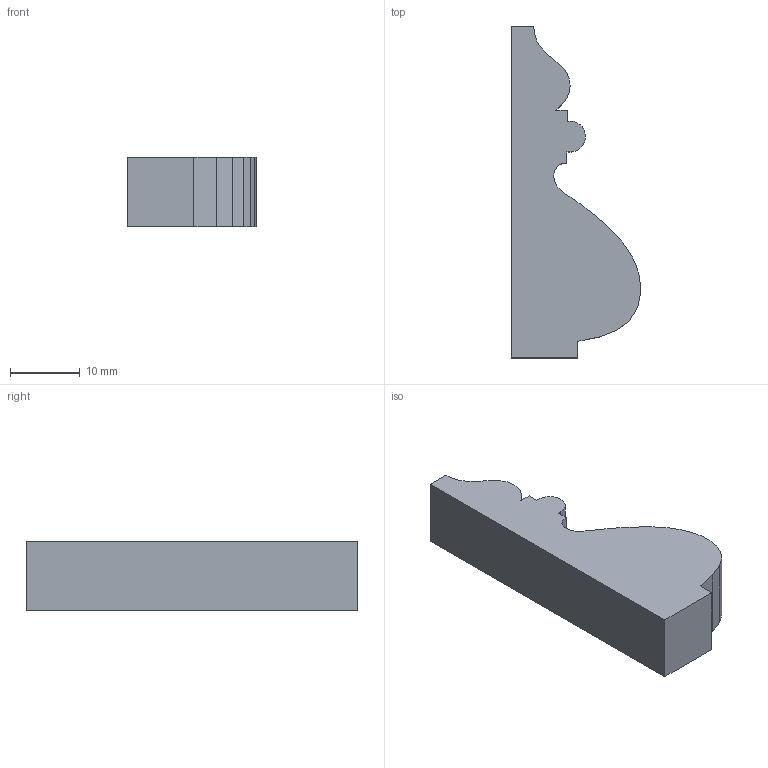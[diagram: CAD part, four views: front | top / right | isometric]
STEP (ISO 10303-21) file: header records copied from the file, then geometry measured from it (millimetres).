
FILE_DESCRIPTION (( 'STEP AP203' ), '1' );
FILE_NAME ('AB009.STEP', '2024-02-16T17:30:04', ( '' ), ( '' ), 'SwSTEP 2.0', 'SolidWorks 2020', '' );
FILE_SCHEMA (( 'CONFIG_CONTROL_DESIGN' ));
Length unit declared in the file: millimetre
Products named in the file (1): AB009
Bounding box: 18.5 x 47.62 x 10 mm (x, y, z)
Volume: 5242.9 mm3; surface area: 2321.8 mm2
Topology: 1 solids, 1 shells, 62 faces, 180 edges, 120 vertices
Faces by surface type: plane 61, cylinder 1
Entity records: 2083 total; most frequent: CARTESIAN_POINT 363, ORIENTED_EDGE 360, DIRECTION 308, EDGE_CURVE 180, VECTOR 178, LINE 178, VERTEX_POINT 120, AXIS2_PLACEMENT_3D 65
